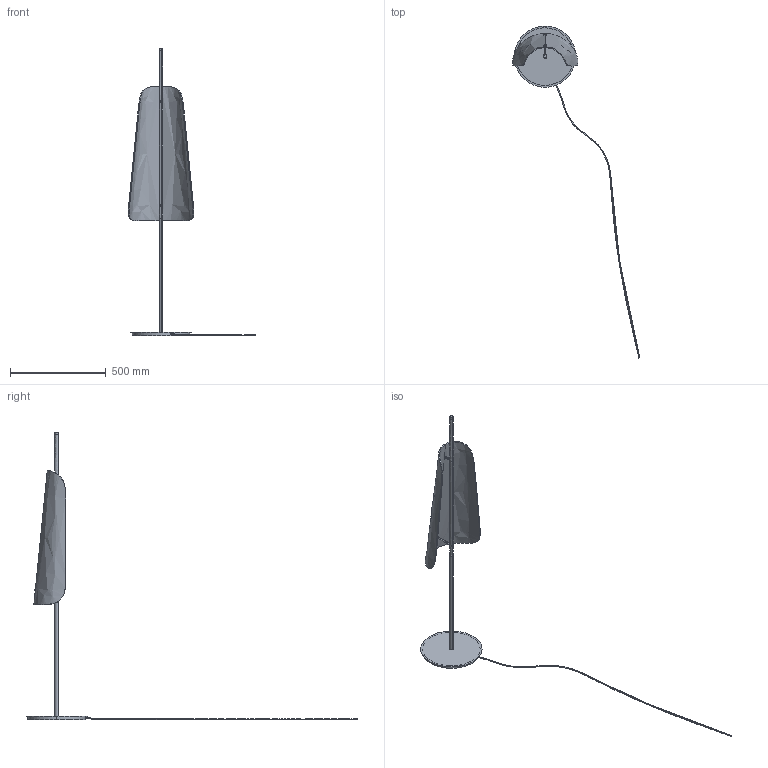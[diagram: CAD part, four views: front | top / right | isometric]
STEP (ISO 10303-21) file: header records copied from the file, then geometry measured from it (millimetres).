
FILE_DESCRIPTION(/* description */ (''),/* implementation_level */ '2;1');
FILE_NAME(/* name */ '20190306_Bent Glass Lamp EXPORT_JA',/* time_stamp */ '2019-03-06T10:58:55+01:00',/* author */ (''),/* organization */ (''),/* preprocessor_version */ 'ST-DEVELOPER v15',/* originating_system */ '',/* authorisation */ '');
FILE_SCHEMA (('AUTOMOTIVE_DESIGN'));
Length unit declared in the file: millimetre
Products named in the file (1): Document
Bounding box: 664.25 x 1730.28 x 1500 mm (x, y, z)
Volume: 2869889.6 mm3; surface area: 1092711.1 mm2
Topology: 14 solids, 14 shells, 152 faces, 337 edges, 203 vertices
Faces by surface type: bspline 113, plane 39
Entity records: 13966 total; most frequent: CARTESIAN_POINT 11853, ORIENTED_EDGE 674, EDGE_CURVE 337, VERTEX_POINT 203, EDGE_LOOP 164, ADVANCED_FACE 152, FACE_OUTER_BOUND 152, B_SPLINE_CURVE_WITH_KNOTS 151
